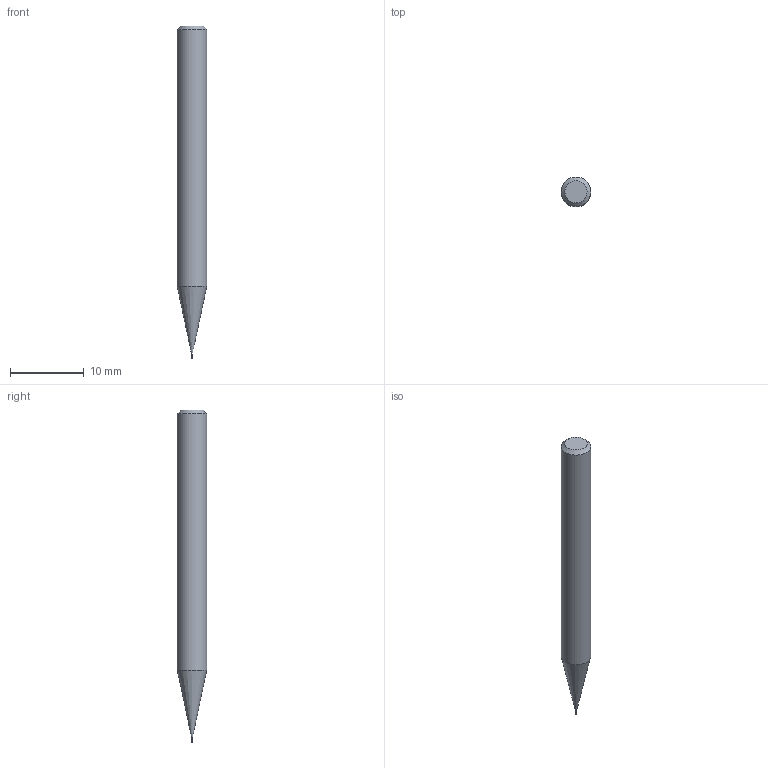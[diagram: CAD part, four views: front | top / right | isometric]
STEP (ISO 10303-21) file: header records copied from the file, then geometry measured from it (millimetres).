
FILE_DESCRIPTION((''),'2;1');
FILE_NAME('C:\Users\nsx150\AppData\Local\Temp\Mastercam 2021\RJ5U8K7RMU\TEMP.step','2021-04-21T16:39:09',(''),(''),'STEP Write','Mastercam 2021 ... CNC Software, Inc.','');
FILE_SCHEMA(('AUTOMOTIVE_DESIGN'));
Length unit declared in the file: millimetre
Products named in the file (1): None
Bounding box: 4 x 4 x 45 mm (x, y, z)
Volume: 481.5 mm3; surface area: 512.6 mm2
Topology: 2 solids, 2 shells, 9 faces, 12 edges, 7 vertices
Faces by surface type: plane 4, cylinder 3, cone 2
Full cylindrical faces by diameter (mm): 0.085 x1, 0.1 x1, 4 x1
Entity records: 211 total; most frequent: DIRECTION 36, CARTESIAN_POINT 25, AXIS2_PLACEMENT_3D 18, ORIENTED_EDGE 14, EDGE_LOOP 14, STYLED_ITEM 12, ADVANCED_FACE 9, FACE_BOUND 8
